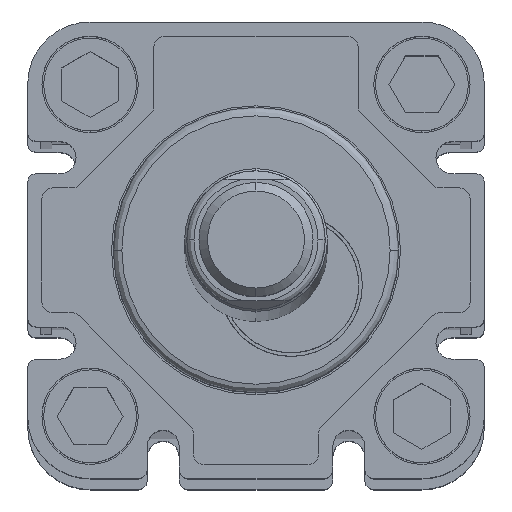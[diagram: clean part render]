
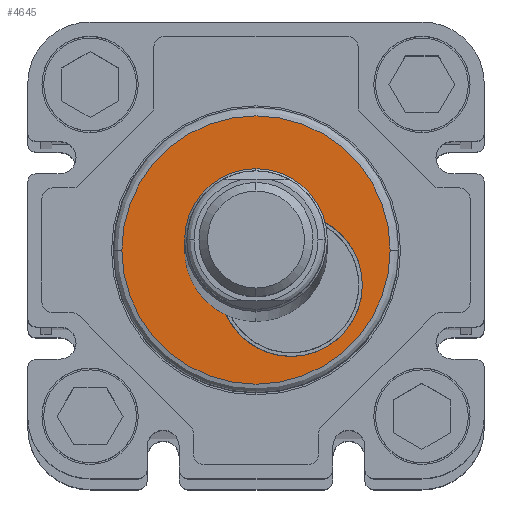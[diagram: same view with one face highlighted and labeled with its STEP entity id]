
A CAD part, top view. The second image highlights one B-rep face of the part: STEP entity #4645.
In plain terms, the highlighted planar face has unit normal (0, 0, 1).
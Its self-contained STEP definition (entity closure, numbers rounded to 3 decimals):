
#1450=CARTESIAN_POINT('',(-5.45,-13.35,900.5));
#1451=VERTEX_POINT('',#1450);
#1459=CARTESIAN_POINT('',(32.15,-13.35,900.5));
#1460=VERTEX_POINT('',#1459);
#1461=CARTESIAN_POINT('',(13.35,-13.35,900.5));
#1462=DIRECTION('',(0.0,0.0,-1.0));
#1463=DIRECTION('',(-1.0,0.0,0.0));
#1464=AXIS2_PLACEMENT_3D('',#1461,#1462,#1463);
#1465=CIRCLE('',#1464,18.8);
#1466=EDGE_CURVE('',#1451,#1460,#1465,.T.);
#2334=CARTESIAN_POINT('',(13.35,-3.35,900.5));
#2335=VERTEX_POINT('',#2334);
#2368=CARTESIAN_POINT('',(22.433,-9.167,900.5));
#2369=VERTEX_POINT('',#2368);
#2377=CARTESIAN_POINT('',(13.35,-13.35,900.5));
#2378=DIRECTION('',(0.0,0.0,-1.0));
#2379=DIRECTION('',(0.0,1.0,0.0));
#2380=AXIS2_PLACEMENT_3D('',#2377,#2378,#2379);
#2381=CIRCLE('',#2380,10.);
#2382=EDGE_CURVE('',#2335,#2369,#2381,.T.);
#4458=CARTESIAN_POINT('',(28.25,-18.25,900.5));
#4459=VERTEX_POINT('',#4458);
#4483=CARTESIAN_POINT('',(9.167,-22.433,900.5));
#4484=VERTEX_POINT('',#4483);
#4492=CARTESIAN_POINT('',(18.25,-18.25,900.5));
#4493=DIRECTION('',(0.0,0.0,-1.0));
#4494=DIRECTION('',(1.0,0.0,0.0));
#4495=AXIS2_PLACEMENT_3D('',#4492,#4493,#4494);
#4496=CIRCLE('',#4495,10.0);
#4497=EDGE_CURVE('',#4459,#4484,#4496,.T.);
#4508=CARTESIAN_POINT('',(18.25,-18.25,900.5));
#4509=DIRECTION('',(0.0,0.0,-1.0));
#4510=DIRECTION('',(1.0,0.0,0.0));
#4511=AXIS2_PLACEMENT_3D('',#4508,#4509,#4510);
#4512=CIRCLE('',#4511,10.0);
#4513=EDGE_CURVE('',#2369,#4459,#4512,.T.);
#4618=CARTESIAN_POINT('',(21.25,-21.25,900.5));
#4619=DIRECTION('',(0.0,0.0,1.0));
#4620=DIRECTION('',(1.0,0.0,0.0));
#4621=AXIS2_PLACEMENT_3D('',#4618,#4619,#4620);
#4622=PLANE('',#4621);
#4623=CARTESIAN_POINT('',(13.35,-13.35,900.5));
#4624=DIRECTION('',(0.0,0.0,-1.0));
#4625=DIRECTION('',(-1.0,0.0,0.0));
#4626=AXIS2_PLACEMENT_3D('',#4623,#4624,#4625);
#4627=CIRCLE('',#4626,18.8);
#4628=EDGE_CURVE('',#1460,#1451,#4627,.T.);
#4629=ORIENTED_EDGE('',*,*,#4628,.F.);
#4630=ORIENTED_EDGE('',*,*,#1466,.F.);
#4631=EDGE_LOOP('',(#4629,#4630));
#4632=FACE_OUTER_BOUND('',#4631,.T.);
#4633=ORIENTED_EDGE('',*,*,#4513,.T.);
#4634=ORIENTED_EDGE('',*,*,#4497,.T.);
#4635=CARTESIAN_POINT('',(13.35,-13.35,900.5));
#4636=DIRECTION('',(0.0,0.0,-1.0));
#4637=DIRECTION('',(0.0,1.0,0.0));
#4638=AXIS2_PLACEMENT_3D('',#4635,#4636,#4637);
#4639=CIRCLE('',#4638,10.);
#4640=EDGE_CURVE('',#4484,#2335,#4639,.T.);
#4641=ORIENTED_EDGE('',*,*,#4640,.T.);
#4642=ORIENTED_EDGE('',*,*,#2382,.T.);
#4643=EDGE_LOOP('',(#4633,#4634,#4641,#4642));
#4644=FACE_BOUND('',#4643,.T.);
#4645=ADVANCED_FACE('',(#4632,#4644),#4622,.T.);
